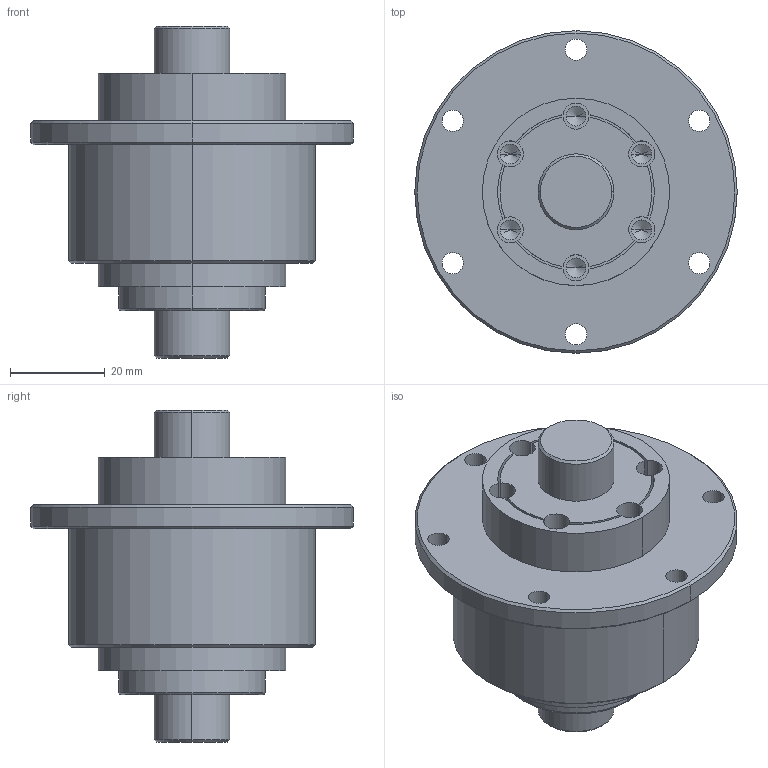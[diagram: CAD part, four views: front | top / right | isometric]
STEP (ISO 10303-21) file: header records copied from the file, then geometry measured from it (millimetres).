
FILE_DESCRIPTION (( 'STEP AP203' ), '1' );
FILE_NAME ('RLBF16.STEP', '2014-12-08T09:58:03', ( '' ), ( '' ), 'SwSTEP 2.0', 'SolidWorks 2014', '' );
FILE_SCHEMA (( 'CONFIG_CONTROL_DESIGN' ));
Length unit declared in the file: millimetre
Products named in the file (1): RLBF16
Bounding box: 68 x 68 x 70 mm (x, y, z)
Volume: 94656.5 mm3; surface area: 20301.5 mm2
Topology: 2 solids, 2 shells, 105 faces, 258 edges, 158 vertices
Faces by surface type: cylinder 70, cone 22, plane 11, torus 2
Entity records: 3173 total; most frequent: DIRECTION 612, CARTESIAN_POINT 510, ORIENTED_EDGE 492, AXIS2_PLACEMENT_3D 260, EDGE_CURVE 246, VERTEX_POINT 158, CIRCLE 154, EDGE_LOOP 132
